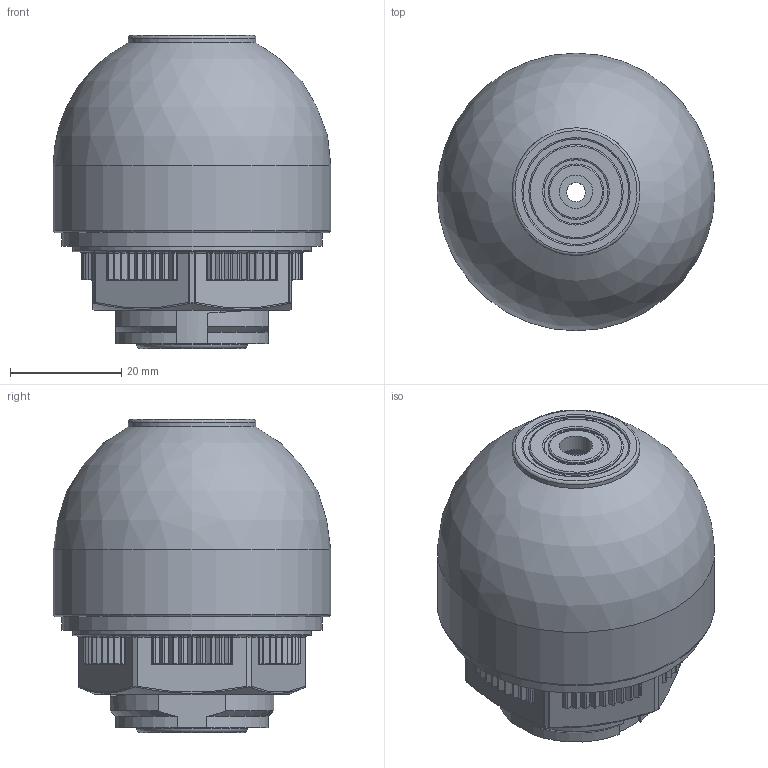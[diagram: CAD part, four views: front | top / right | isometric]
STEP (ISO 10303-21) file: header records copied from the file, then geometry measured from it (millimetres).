
FILE_DESCRIPTION(('STEP AP214'), '1');
FILE_NAME('Äàò÷èê â ñáîðå', '', ('UNSPECIFIED'), ('UNSPECIFIED'), 'C3D Converter', 'C3D Toolkit', '');
FILE_SCHEMA(('AUTOMOTIVE_DESIGN { 1 0 10303 214 3 1 1}'));
Length unit declared in the file: millimetre
Assembly tree (6 placements, depth 2):
  (unnamed)
    (unnamed)
    (unnamed)
    (unnamed)
    (unnamed)
    (unnamed)
    (unnamed)
Bounding box: 50 x 50 x 56.39 mm (x, y, z)
Volume: 46395.8 mm3; surface area: 24674.4 mm2
Topology: 6 solids, 7 shells, 510 faces, 1278 edges, 778 vertices
Faces by surface type: cylinder 239, plane 155, torus 87, bspline 16, cone 9, sphere 4
Full cylindrical faces by diameter (mm): 3.413 x1, 6 x1, 10 x1, 11.5 x1, 12 x2, 17 x1, 19 x1, 23 x2, 24 x1, 28.376 x1, 30 x1, 30.5 x2, 43 x1, 47 x1, 50 x1
Entity records: 21867 total; most frequent: CARTESIAN_POINT 5549, DIRECTION 2525, ORIENTED_EDGE 2414, EDGE_CURVE 1209, AXIS2_PLACEMENT_3D 951, VERTEX_POINT 753, LINE 623, VECTOR 623
